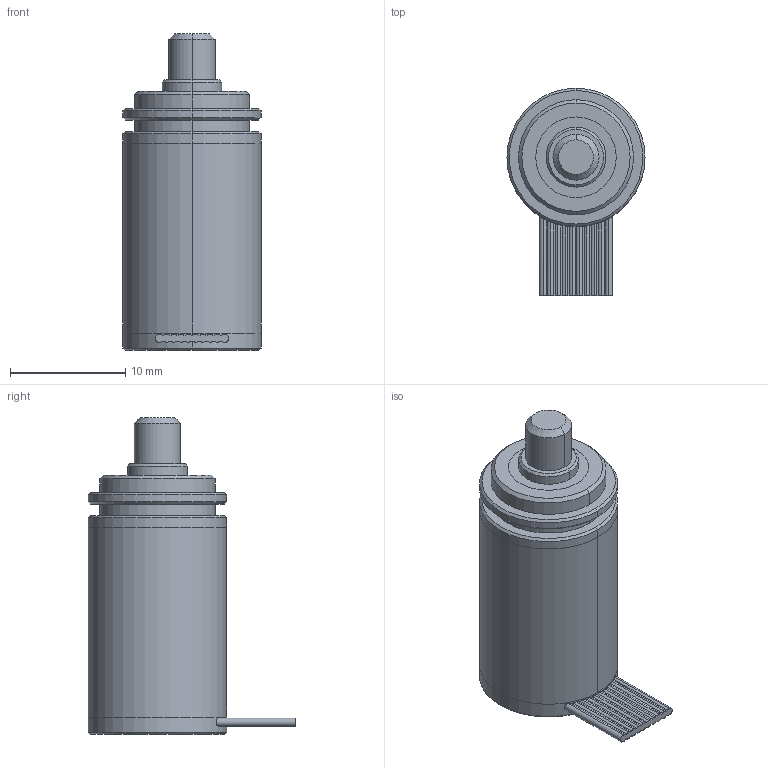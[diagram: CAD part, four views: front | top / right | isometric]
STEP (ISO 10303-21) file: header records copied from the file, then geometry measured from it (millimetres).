
FILE_DESCRIPTION (( 'STEP AP203' ), '1' );
FILE_NAME ('ËÈÐ-112A (Âàë 4 ìì).STEP', '2014-07-21T07:45:14', ( '' ), ( '' ), 'SwSTEP 2.0', 'SolidWorks 2013', '' );
FILE_SCHEMA (( 'CONFIG_CONTROL_DESIGN' ));
Length unit declared in the file: millimetre
Products named in the file (1): ËÈÐ-112A (Âàë 4 ìì)
Bounding box: 12 x 18 x 27.5 mm (x, y, z)
Volume: 2547.9 mm3; surface area: 1846.2 mm2
Topology: 4 solids, 4 shells, 102 faces, 247 edges, 160 vertices
Faces by surface type: cylinder 54, plane 34, cone 14
Entity records: 3186 total; most frequent: CARTESIAN_POINT 670, DIRECTION 535, ORIENTED_EDGE 494, EDGE_CURVE 247, AXIS2_PLACEMENT_3D 215, VERTEX_POINT 160, CIRCLE 112, EDGE_LOOP 111
